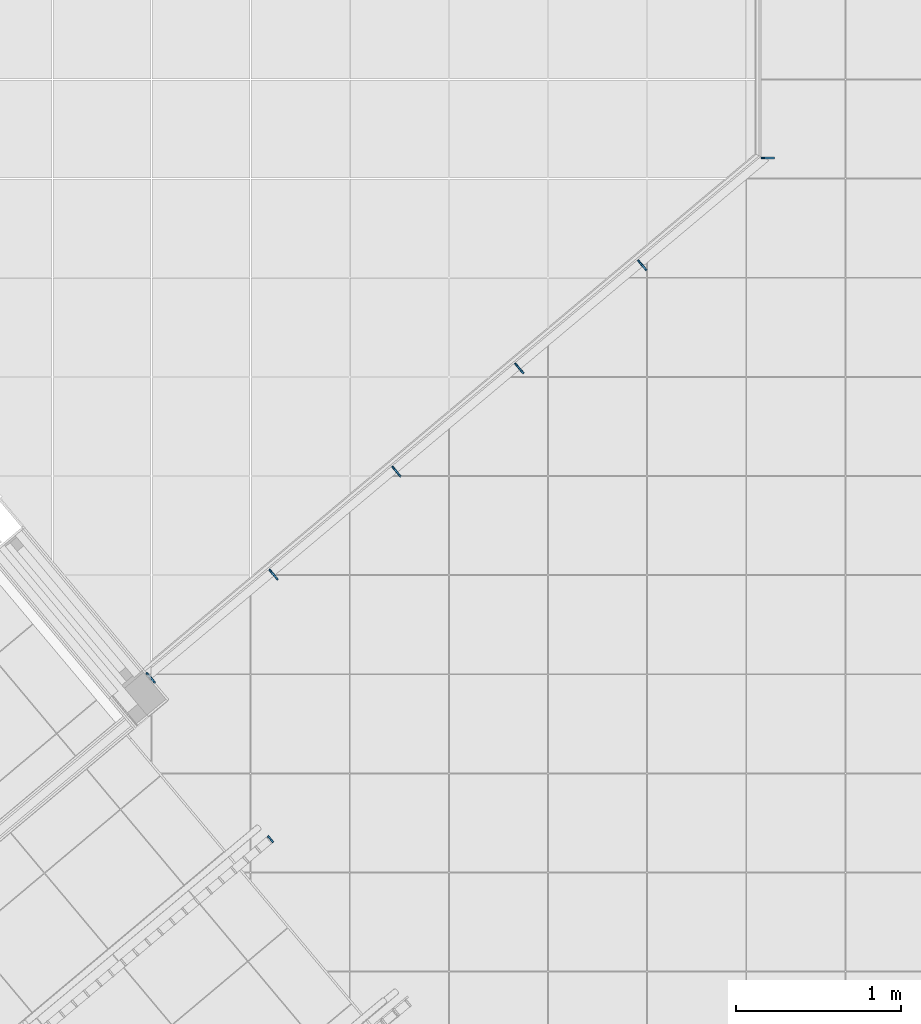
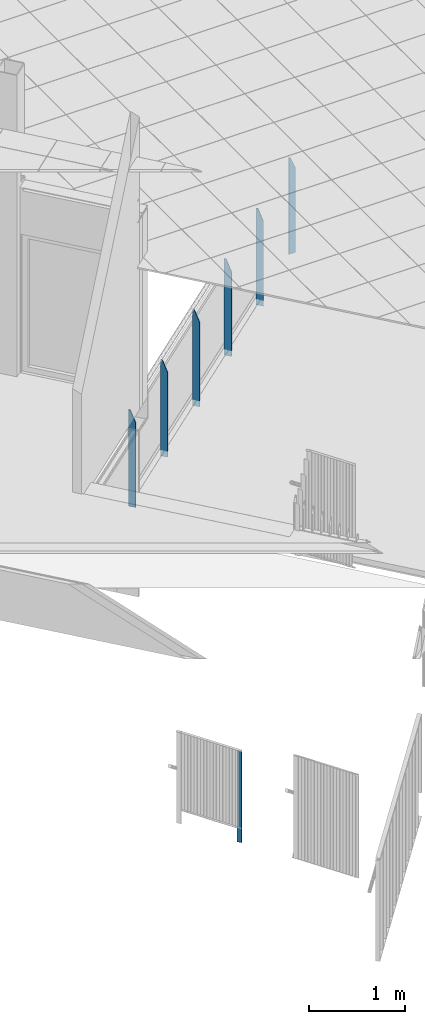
# One storey, part 2 of 321: 8 members, 2 elements without a shape of their own.
"""IFC2X3 building model written with IfcOpenShell, lengths in millimetres."""

from ifc_helpers import new_model, entity, si_unit, converted_unit, derived_unit, money_unit, direction, frame, origin_with_axes, place, context, subcontext, project, spatial, faceted_brep, source, transform, mapped, material, type_object, type_shapes, element, aggregate, save


model = new_model("IFC2X3")

# Units and contexts
model_context = context("Model", 3, precision=0.01, world=origin_with_axes(), true_north=direction((0.0, 1.0)))
plan_context = context("Plan", 3, precision=0.01, world=origin_with_axes(), true_north=direction((0.0, 1.0)))
body_context = subcontext(model_context, "Body", "Model", "MODEL_VIEW")
ifc_project = project(units=[si_unit("LENGTHUNIT", "METRE", prefix="MILLI"), si_unit("AREAUNIT", "SQUARE_METRE"), si_unit("VOLUMEUNIT", "CUBIC_METRE"), converted_unit("PLANEANGLEUNIT", "DEGREE", entity("IfcPlaneAngleMeasure", 0.0174532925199), si_unit("PLANEANGLEUNIT", "RADIAN"), dimensions=[0, 0, 0, 0, 0, 0, 0]), money_unit("EUR"), converted_unit("TIMEUNIT", "Year", entity("IfcTimeMeasure", 31556926.0), si_unit("TIMEUNIT", "SECOND"), dimensions=[0, 0, 1, 0, 0, 0, 0]), si_unit("MASSUNIT", "GRAM", prefix="KILO"), si_unit("THERMODYNAMICTEMPERATUREUNIT", "DEGREE_CELSIUS"), si_unit("LUMINOUSINTENSITYUNIT", "LUMEN"), si_unit("ENERGYUNIT", "JOULE", prefix="MEGA"), derived_unit("THERMALCONDUCTANCEUNIT", [(si_unit("POWERUNIT", "WATT"), 1), (si_unit("LENGTHUNIT", "METRE"), -1), (si_unit("THERMODYNAMICTEMPERATUREUNIT", "KELVIN"), -1)]), derived_unit("SPECIFICHEATCAPACITYUNIT", [(si_unit("ENERGYUNIT", "JOULE"), 1), (si_unit("MASSUNIT", "GRAM", prefix="KILO"), -1), (si_unit("THERMODYNAMICTEMPERATUREUNIT", "KELVIN"), -1)]), derived_unit("MASSDENSITYUNIT", [(si_unit("MASSUNIT", "GRAM", prefix="KILO"), 1), (si_unit("VOLUMEUNIT", "CUBIC_METRE"), -1)])], contexts=[model_context, plan_context])

# Site, building, storey
site_placement = place(None, origin_with_axes())
site = spatial("IfcSite", under=ifc_project, at=site_placement, Name="Fortuinstraat Woensdrecht", CompositionType="ELEMENT")
building_placement = place(site_placement, origin_with_axes())
building = spatial("IfcBuilding", under=site, at=building_placement, Name="IKC Fortuna", CompositionType="ELEMENT")
storey_placement = place(building_placement, frame((0.0, 0.0, 4000.0), z_axis=(0.0, 0.0, 1.0), x_axis=(1.0, 0.0, 0.0)))
storey = spatial("IfcBuildingStorey", under=building, at=storey_placement, Name="01 eerste verdieping", CompositionType="ELEMENT", Elevation=4000.0)

# Railing, members
railing_type = type_object("IfcRailingType", Name="Railing Type", PredefinedType="NOTDEFINED")
railing_1_placement = place(storey_placement, frame((23270.4349765, 16097.2790326, 0.0), z_axis=(0.0, 0.0, 1.0), x_axis=(-1.0, 0.0, 0.0)))
railing_1 = element("IfcRailing", 1, at=railing_1_placement, inside=storey, type_object=railing_type, Name="34_Reling_Reling vide", PredefinedType="NOTDEFINED")
ifc_material = material(Name="Metaal - RVS")
member_type_1 = type_object("IfcMemberType", Name="IfcMember", PredefinedType="POST")
shared_shape_1 = source(origin_with_axes(), body_context, "Body", "Brep", [
    faceted_brep([(-75.0, 0.0, 0.0), (-75.0, 10.0, 0.0), (5.0, 10.0, 0.0), (5.0, 0.0, 0.0), (-75.0, 0.0, 1075.0), (-75.0, 10.0, 1075.0), (-15.0, 10.0, 1225.0), (5.0, 10.0, 1225.0), (5.0, 0.0, 1225.0), (-15.0, 0.0, 1225.0)], [[[0, 1, 2, 3]], [[4, 5, 1, 0]], [[1, 5, 6, 7, 2]], [[3, 2, 7, 8]], [[0, 3, 8, 9, 4]], [[9, 6, 5, 4]], [[8, 7, 6, 9]]]),
])
member_1_placement = place(railing_1_placement, frame((105.0, 7926.95481214, -75.0), z_axis=(0.0, 0.0, 1.0), x_axis=(-1.0, 0.0, 0.0)))
member_1 = element("IfcMember", 2, at=member_1_placement, type_object=member_type_1, material=ifc_material, Name="_Reling - baluster_", ObjectType="POST", context=body_context, shape_type="MappedRepresentation", body=[
    mapped(shared_shape_1, transform((0.0, 0.0, 0.0), x_axis=(-1.0, 0.0, 0.0), y_axis=(0.0, -1.0, 0.0), z_axis=(0.0, 0.0, 1.0))),
])
member_2_placement = place(railing_1_placement, frame((3824.17315892, 11047.7116381, -75.0), z_axis=(0.0, 0.0, 1.0), x_axis=(-1.0, 0.0, 0.0)))
member_2 = element("IfcMember", 3, at=member_2_placement, type_object=member_type_1, material=ifc_material, Name="_Reling - baluster_", ObjectType="POST", context=body_context, shape_type="MappedRepresentation", body=[
    mapped(shared_shape_1, transform((0.0, 0.0, 0.0), x_axis=(-0.642787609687, 0.766044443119, 0.0), y_axis=(-0.766044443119, -0.642787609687, 0.0), z_axis=(0.0, 0.0, 1.0))),
])
member_type_2 = type_object("IfcMemberType", Name="IfcMember", PredefinedType="MEMBER")
type_shapes(member_type_2, [shared_shape_1])
member_3_placement = place(railing_1_placement, frame((848.834631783, 8551.10617733, -75.0), z_axis=(0.0, 0.0, 1.0), x_axis=(-1.0, 0.0, 0.0)))
member_3 = element("IfcMember", 4, at=member_3_placement, type_object=member_type_2, material=ifc_material, Name="_Onderdeel_Spijlen-x", ObjectType="MEMBER", context=body_context, shape_type="MappedRepresentation", body=[
    mapped(shared_shape_1, transform((0.0, 0.0, 0.0), x_axis=(-0.642787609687, 0.766044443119, 0.0), y_axis=(-0.766044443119, -0.642787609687, 0.0), z_axis=(0.0, 0.0, 1.0))),
])
member_4_placement = place(railing_1_placement, frame((1592.66926357, 9175.25754252, -75.0), z_axis=(0.0, 0.0, 1.0), x_axis=(-1.0, 0.0, 0.0)))
member_4 = element("IfcMember", 5, at=member_4_placement, type_object=member_type_2, material=ifc_material, Name="_Onderdeel_Spijlen-x", ObjectType="MEMBER", context=body_context, shape_type="MappedRepresentation", body=[
    mapped(shared_shape_1, transform((0.0, 0.0, 0.0), x_axis=(-0.642787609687, 0.766044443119, 0.0), y_axis=(-0.766044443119, -0.642787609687, 0.0), z_axis=(0.0, 0.0, 1.0))),
])
member_5_placement = place(railing_1_placement, frame((2336.50389535, 9799.4089077, -75.0), z_axis=(0.0, 0.0, 1.0), x_axis=(-1.0, 0.0, 0.0)))
member_5 = element("IfcMember", 6, at=member_5_placement, type_object=member_type_2, material=ifc_material, Name="_Onderdeel_Spijlen-x", ObjectType="MEMBER", context=body_context, shape_type="MappedRepresentation", body=[
    mapped(shared_shape_1, transform((0.0, 0.0, 0.0), x_axis=(-0.642787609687, 0.766044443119, 0.0), y_axis=(-0.766044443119, -0.642787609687, 0.0), z_axis=(0.0, 0.0, 1.0))),
])
member_6_placement = place(railing_1_placement, frame((3080.33852713, 10423.5602729, -75.0), z_axis=(0.0, 0.0, 1.0), x_axis=(-1.0, 0.0, 0.0)))
member_6 = element("IfcMember", 7, at=member_6_placement, type_object=member_type_2, material=ifc_material, Name="_Onderdeel_Spijlen-x", ObjectType="MEMBER", context=body_context, shape_type="MappedRepresentation", body=[
    mapped(shared_shape_1, transform((0.0, 0.0, 0.0), x_axis=(-0.642787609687, 0.766044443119, 0.0), y_axis=(-0.766044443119, -0.642787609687, 0.0), z_axis=(0.0, 0.0, 1.0))),
])
member_7_placement = place(railing_1_placement, frame((3824.17315892, 11047.7116381, -75.0), z_axis=(0.0, 0.0, 1.0), x_axis=(-1.0, 0.0, 0.0)))
member_7 = element("IfcMember", 8, at=member_7_placement, type_object=member_type_2, material=ifc_material, Name="_Onderdeel_Spijlen-x", ObjectType="MEMBER", context=body_context, shape_type="MappedRepresentation", body=[
    mapped(shared_shape_1, transform((0.0, 0.0, 0.0), x_axis=(-0.642787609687, 0.766044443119, 0.0), y_axis=(-0.766044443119, -0.642787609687, 0.0), z_axis=(0.0, 0.0, 1.0))),
])
aggregate(railing_1, [member_1, member_2, member_3, member_4, member_5, member_6, member_7])

# Railing, member
railing_2_placement = place(storey_placement, frame((20190.3043408, 4042.29479627, -3818.75), z_axis=(0.0, 0.0, 1.0), x_axis=(1.0, 0.0, 0.0)))
railing_2 = element("IfcRailing", 9, at=railing_2_placement, inside=storey, type_object=railing_type, Name="34_Reling_Trapleuning", PredefinedType="NOTDEFINED")
shared_shape_2 = source(origin_with_axes(), body_context, "Body", "Brep", [
    faceted_brep([(25.0, 5.0, 3.9402173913), (-25.0, 5.0, 3.9402173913), (-25.0, 5.0, 1163.94021739), (25.0, 5.0, 1163.94021739), (25.0, -5.0, -3.9402173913), (-25.0, -5.0, -3.9402173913), (-25.0, -5.0, 1156.05978261), (25.0, -5.0, 1156.05978261)], [[[0, 1, 2, 3]], [[0, 4, 5, 1]], [[1, 5, 6, 2]], [[3, 2, 6, 7]], [[4, 0, 3, 7]], [[5, 4, 7, 6]]]),
])
type_shapes(member_type_1, [shared_shape_1, shared_shape_2])
member_8_placement = place(railing_2_placement, frame((0.0, 0.0, -180.0), z_axis=(0.0, 0.0, 1.0), x_axis=(1.0, 0.0, 0.0)))
member_8 = element("IfcMember", 10, at=member_8_placement, type_object=member_type_1, material=ifc_material, Name="_Reling - baluster_", ObjectType="POST", context=body_context, shape_type="MappedRepresentation", body=[
    mapped(shared_shape_2, transform((0.0, 0.0, 0.0), x_axis=(-0.642787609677, 0.766044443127, 0.0), y_axis=(-0.766044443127, -0.642787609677, 0.0), z_axis=(0.0, 0.0, 1.0))),
])
aggregate(railing_2, [member_8])

save(model, "model.ifc")
